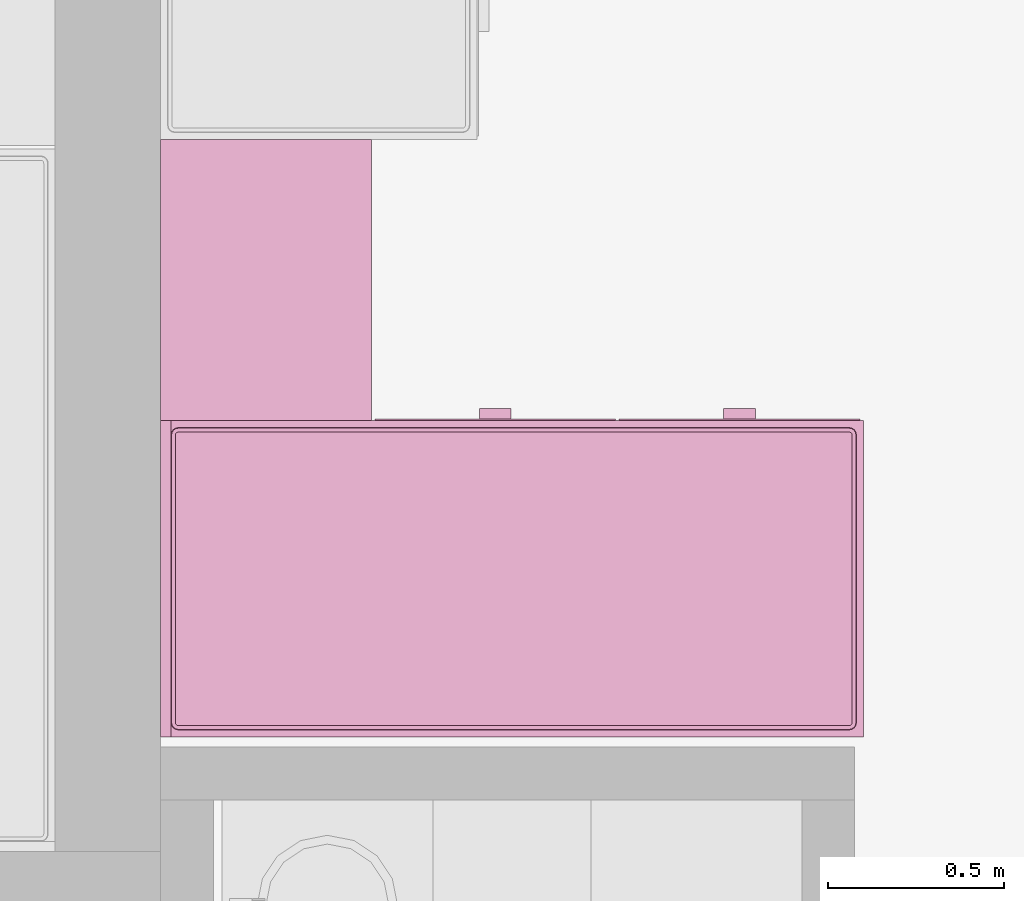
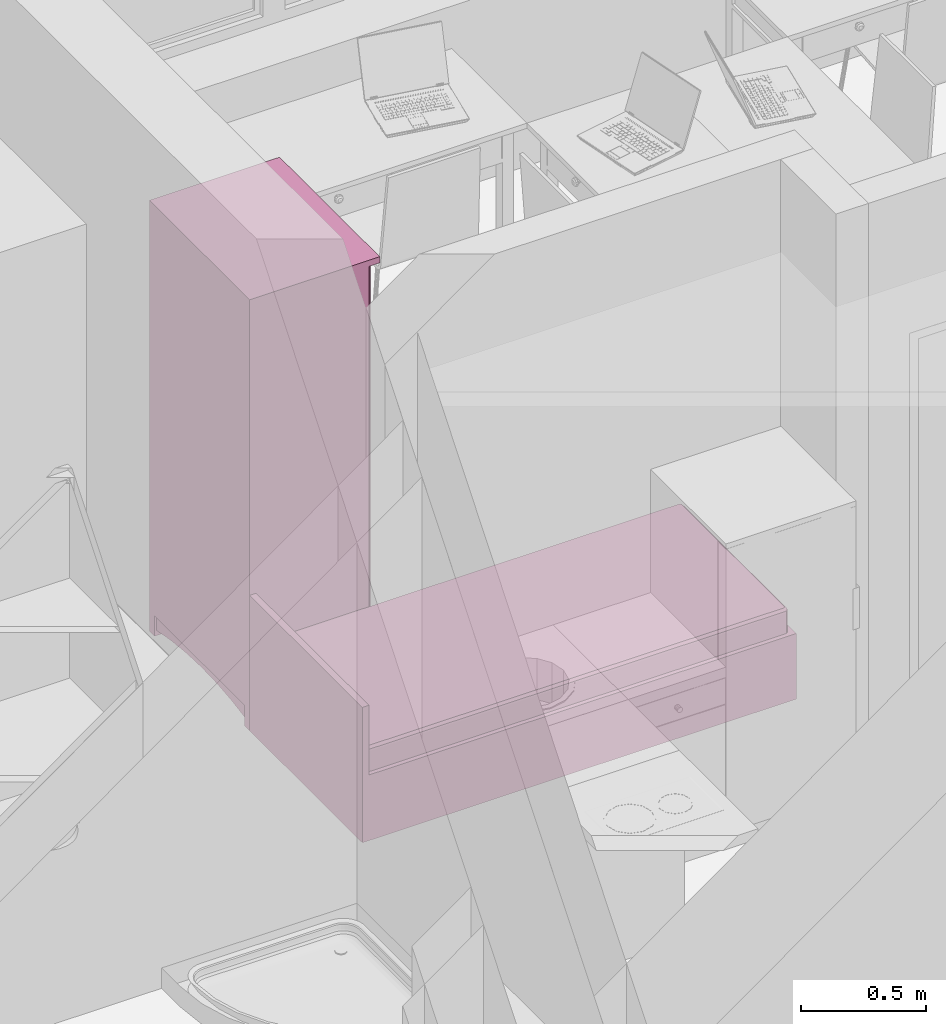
# One storey, part 145 of 165: 2 furnishings.
"""IFC2X3 building model written with IfcOpenShell, lengths in millimetres."""

from ifc_helpers import new_model, entity, si_unit, converted_unit, money_unit, direction, frame, origin_with_axes, place, context, subcontext, project, spatial, faceted_brep, source, transform, mapped, material, material_list, type_object, element, save


model = new_model("IFC2X3")

# Units and contexts
model_context = context("Model", 3, precision=1e-05, world=origin_with_axes(), true_north=direction((0.0, 1.0)))
body_context = subcontext(model_context, "Body", "Model", "MODEL_VIEW")
ifc_project = project(units=[si_unit("LENGTHUNIT", "METRE", prefix="MILLI"), si_unit("AREAUNIT", "SQUARE_METRE"), si_unit("VOLUMEUNIT", "CUBIC_METRE"), converted_unit("PLANEANGLEUNIT", "DEGREE", entity("IfcPlaneAngleMeasure", 0.0174532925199), si_unit("PLANEANGLEUNIT", "RADIAN"), dimensions=[0, 0, 0, 0, 0, 0, 0]), si_unit("SOLIDANGLEUNIT", "STERADIAN"), money_unit("USD"), converted_unit("TIMEUNIT", "Year", entity("IfcTimeMeasure", 31556926.0), si_unit("TIMEUNIT", "SECOND"), dimensions=[0, 0, 0, 0, 0, 0, 0]), si_unit("MASSUNIT", "GRAM"), si_unit("THERMODYNAMICTEMPERATUREUNIT", "DEGREE_CELSIUS"), si_unit("LUMINOUSINTENSITYUNIT", "LUMEN")], contexts=[model_context])

# Site, building, storey
site_placement = place(None, origin_with_axes())
site = spatial("IfcSite", under=ifc_project, at=site_placement, Name="Site", CompositionType="ELEMENT")
building_placement = place(site_placement, origin_with_axes())
building = spatial("IfcBuilding", under=site, at=building_placement, Name="Building", CompositionType="ELEMENT")
storey_placement = place(building_placement, frame((0.0, 0.0, 6300.0), z_axis=(0.0, 0.0, 1.0), x_axis=(1.0, 0.0, 0.0)))
storey = spatial("IfcBuildingStorey", under=building, at=storey_placement, Name="4KORRUS", CompositionType="ELEMENT", Elevation=6300.0)

# Furnishings
ifc_material = material(Name="Background")
ifc_material_list = material_list([ifc_material])
furnishing_element_type_1 = type_object("IfcFurnishingElementType", Name="Bed 19")
shared_shape_1 = source(origin_with_axes(), body_context, "Body", "Brep", [
    faceted_brep([(900.0, 1970.0, 0.0), (0.0, 1970.0, 0.0), (0.0, 2000.0, 0.0), (900.0, 2000.0, 0.0), (900.0, 1970.0, 660.0), (0.0, 1970.0, 660.0), (0.0, 2000.0, 660.0), (900.0, 2000.0, 660.0)], [[[0, 1, 2, 3]], [[1, 0, 4, 5]], [[2, 1, 5, 6]], [[3, 2, 6, 7]], [[0, 3, 7, 4]], [[5, 4, 7, 6]]]),
    faceted_brep([(900.0, 0.0, 0.0), (0.0, 0.0, 0.0), (0.0, 1970.0, 0.0), (900.0, 1970.0, 0.0), (900.0, 0.0, 320.0), (0.0, 0.0, 320.0), (0.0, 1970.0, 320.0), (900.0, 1970.0, 320.0)], [[[0, 1, 2, 3]], [[1, 0, 4, 5]], [[2, 1, 5, 6]], [[3, 2, 6, 7]], [[0, 3, 7, 4]], [[5, 4, 7, 6]]]),
    faceted_brep([(905.0, 10.0, 30.0), (900.0, 10.0, 30.0), (900.0, 695.0, 30.0), (905.0, 695.0, 30.0), (905.0, 10.0, 290.0), (900.0, 10.0, 290.0), (900.0, 695.0, 290.0), (905.0, 695.0, 290.0)], [[[0, 1, 2, 3]], [[1, 0, 4, 5]], [[2, 1, 5, 6]], [[3, 2, 6, 7]], [[0, 3, 7, 4]], [[5, 4, 7, 6]]]),
    faceted_brep([(935.0, 307.5, 150.0), (905.0, 307.5, 150.0), (905.0, 397.5, 150.0), (935.0, 397.5, 150.0), (935.0, 307.5, 170.0), (905.0, 307.5, 170.0), (905.0, 397.5, 170.0), (935.0, 397.5, 170.0)], [[[0, 1, 2, 3]], [[1, 0, 4, 5]], [[2, 1, 5, 6]], [[3, 2, 6, 7]], [[0, 3, 7, 4]], [[5, 4, 7, 6]]]),
    faceted_brep([(905.0, 705.0, 30.0), (900.0, 705.0, 30.0), (900.0, 1390.0, 30.0), (905.0, 1390.0, 30.0), (905.0, 705.0, 290.0), (900.0, 705.0, 290.0), (900.0, 1390.0, 290.0), (905.0, 1390.0, 290.0)], [[[0, 1, 2, 3]], [[1, 0, 4, 5]], [[2, 1, 5, 6]], [[3, 2, 6, 7]], [[0, 3, 7, 4]], [[5, 4, 7, 6]]]),
    faceted_brep([(935.0, 1002.5, 150.0), (905.0, 1002.5, 150.0), (905.0, 1092.5, 150.0), (935.0, 1092.5, 150.0), (935.0, 1002.5, 170.0), (905.0, 1002.5, 170.0), (905.0, 1092.5, 170.0), (935.0, 1092.5, 170.0)], [[[0, 1, 2, 3]], [[1, 0, 4, 5]], [[2, 1, 5, 6]], [[3, 2, 6, 7]], [[0, 3, 7, 4]], [[5, 4, 7, 6]]]),
    faceted_brep([(20.0, 40.0, 350.0), (20.0, 1950.0, 350.0), (21.522, 1957.654, 350.0), (25.858, 1964.142, 350.0), (32.346, 1968.478, 350.0), (40.0, 1970.0, 350.0), (860.0, 1970.0, 350.0), (867.654, 1968.478, 350.0), (874.142, 1964.142, 350.0), (878.478, 1957.654, 350.0), (880.0, 1950.0, 350.0), (880.0, 40.0, 350.0), (878.478, 32.346, 350.0), (874.142, 25.858, 350.0), (867.654, 21.522, 350.0), (860.0, 20.0, 350.0), (40.0, 20.0, 350.0), (32.346, 21.522, 350.0), (25.858, 25.858, 350.0), (21.522, 32.346, 350.0), (20.0, 40.0, 420.0), (20.0, 1950.0, 420.0), (21.522, 1957.654, 420.0), (25.858, 1964.142, 420.0), (32.346, 1968.478, 420.0), (40.0, 1970.0, 420.0), (860.0, 1970.0, 420.0), (867.654, 1968.478, 420.0), (874.142, 1964.142, 420.0), (878.478, 1957.654, 420.0), (880.0, 1950.0, 420.0), (880.0, 40.0, 420.0), (878.478, 32.346, 420.0), (874.142, 25.858, 420.0), (867.654, 21.522, 420.0), (860.0, 20.0, 420.0), (40.0, 20.0, 420.0), (32.346, 21.522, 420.0), (25.858, 25.858, 420.0), (21.522, 32.346, 420.0), (21.522, 40.15, 427.654), (21.522, 1949.85, 427.654), (22.956, 1957.06, 427.654), (26.955, 1963.045, 427.654), (32.94, 1967.044, 427.654), (40.15, 1968.478, 427.654), (859.85, 1968.478, 427.654), (867.06, 1967.044, 427.654), (873.045, 1963.045, 427.654), (877.044, 1957.06, 427.654), (878.478, 1949.85, 427.654), (878.478, 40.15, 427.654), (877.044, 32.94, 427.654), (873.045, 26.955, 427.654), (867.06, 22.956, 427.654), (859.85, 21.522, 427.654), (40.15, 21.522, 427.654), (32.94, 22.956, 427.654), (26.955, 26.955, 427.654), (22.956, 32.94, 427.654), (32.346, 41.216, 438.478), (32.346, 1948.784, 438.478), (33.152, 1952.836, 438.478), (34.759, 1955.241, 438.478), (37.164, 1956.848, 438.478), (41.216, 1957.654, 438.478), (858.784, 1957.654, 438.478), (862.836, 1956.848, 438.478), (865.241, 1955.241, 438.478), (866.848, 1952.836, 438.478), (867.654, 1948.784, 438.478), (867.654, 41.216, 438.478), (866.848, 37.164, 438.478), (865.241, 34.759, 438.478), (862.836, 33.152, 438.478), (858.784, 32.346, 438.478), (41.216, 32.346, 438.478), (37.164, 33.152, 438.478), (34.759, 34.759, 438.478), (33.152, 37.164, 438.478), (40.0, 41.97, 440.0), (40.0, 1948.03, 440.0), (40.327, 1949.673, 440.0), (40.0, 1950.0, 439.924), (41.97, 1950.0, 440.0), (858.03, 1950.0, 440.0), (859.673, 1949.673, 440.0), (860.0, 1950.0, 439.924), (860.0, 1948.03, 440.0), (860.0, 41.97, 440.0), (859.673, 40.327, 440.0), (860.0, 40.0, 439.924), (858.03, 40.0, 440.0), (41.97, 40.0, 440.0), (40.327, 40.327, 440.0), (40.0, 40.0, 439.924)], [[[0, 1, 2, 3, 4, 5, 6, 7, 8, 9, 10, 11, 12, 13, 14, 15, 16, 17, 18, 19]], [[1, 0, 20, 21]], [[2, 1, 21, 22]], [[3, 2, 22, 23]], [[4, 3, 23, 24]], [[5, 4, 24, 25]], [[6, 5, 25, 26]], [[7, 6, 26, 27]], [[8, 7, 27, 28]], [[9, 8, 28, 29]], [[10, 9, 29, 30]], [[11, 10, 30, 31]], [[12, 11, 31, 32]], [[13, 12, 32, 33]], [[14, 13, 33, 34]], [[15, 14, 34, 35]], [[16, 15, 35, 36]], [[17, 16, 36, 37]], [[18, 17, 37, 38]], [[19, 18, 38, 39]], [[0, 19, 39, 20]], [[21, 20, 40, 41]], [[22, 21, 41, 42]], [[23, 22, 42, 43]], [[24, 23, 43, 44]], [[25, 24, 44, 45]], [[26, 25, 45, 46]], [[27, 26, 46, 47]], [[28, 27, 47, 48]], [[29, 28, 48, 49]], [[30, 29, 49, 50]], [[31, 30, 50, 51]], [[32, 31, 51, 52]], [[33, 32, 52, 53]], [[34, 33, 53, 54]], [[35, 34, 54, 55]], [[36, 35, 55, 56]], [[37, 36, 56, 57]], [[38, 37, 57, 58]], [[39, 38, 58, 59]], [[20, 39, 59, 40]], [[41, 40, 60, 61]], [[42, 41, 61, 62]], [[43, 42, 62, 63]], [[44, 43, 63, 64]], [[45, 44, 64, 65]], [[46, 45, 65, 66]], [[47, 46, 66, 67]], [[48, 47, 67, 68]], [[49, 48, 68, 69]], [[50, 49, 69, 70]], [[51, 50, 70, 71]], [[52, 51, 71, 72]], [[53, 52, 72, 73]], [[54, 53, 73, 74]], [[55, 54, 74, 75]], [[56, 55, 75, 76]], [[57, 56, 76, 77]], [[58, 57, 77, 78]], [[59, 58, 78, 79]], [[40, 59, 79, 60]], [[61, 60, 80, 81]], [[62, 61, 81, 82, 83]], [[63, 62, 83]], [[64, 63, 83]], [[65, 64, 83, 82, 84]], [[66, 65, 84, 85]], [[67, 66, 85, 86, 87]], [[68, 67, 87]], [[69, 68, 87]], [[70, 69, 87, 86, 88]], [[71, 70, 88, 89]], [[72, 71, 89, 90, 91]], [[73, 72, 91]], [[74, 73, 91]], [[75, 74, 91, 90, 92]], [[76, 75, 92, 93]], [[77, 76, 93, 94, 95]], [[78, 77, 95]], [[79, 78, 95]], [[60, 79, 95, 94, 80]], [[81, 80, 94, 93, 92, 90, 89, 88, 86, 85, 84, 82]]]),
    faceted_brep([(20.0, 40.0, 350.0), (21.522, 32.346, 350.0), (25.858, 25.858, 350.0), (32.346, 21.522, 350.0), (40.0, 20.0, 350.0), (860.0, 20.0, 350.0), (867.654, 21.522, 350.0), (874.142, 25.858, 350.0), (878.478, 32.346, 350.0), (880.0, 40.0, 350.0), (880.0, 1950.0, 350.0), (878.478, 1957.654, 350.0), (874.142, 1964.142, 350.0), (867.654, 1968.478, 350.0), (860.0, 1970.0, 350.0), (40.0, 1970.0, 350.0), (32.346, 1968.478, 350.0), (25.858, 1964.142, 350.0), (21.522, 1957.654, 350.0), (20.0, 1950.0, 350.0), (20.0, 40.0, 320.0), (21.522, 32.346, 320.0), (25.858, 25.858, 320.0), (32.346, 21.522, 320.0), (40.0, 20.0, 320.0), (860.0, 20.0, 320.0), (867.654, 21.522, 320.0), (874.142, 25.858, 320.0), (878.478, 32.346, 320.0), (880.0, 40.0, 320.0), (880.0, 1950.0, 320.0), (878.478, 1957.654, 320.0), (874.142, 1964.142, 320.0), (867.654, 1968.478, 320.0), (860.0, 1970.0, 320.0), (40.0, 1970.0, 320.0), (32.346, 1968.478, 320.0), (25.858, 1964.142, 320.0), (21.522, 1957.654, 320.0), (20.0, 1950.0, 320.0)], [[[0, 1, 2, 3, 4, 5, 6, 7, 8, 9, 10, 11, 12, 13, 14, 15, 16, 17, 18, 19]], [[0, 20, 21, 1]], [[1, 21, 22, 2]], [[2, 22, 23, 3]], [[3, 23, 24, 4]], [[4, 24, 25, 5]], [[5, 25, 26, 6]], [[6, 26, 27, 7]], [[7, 27, 28, 8]], [[8, 28, 29, 9]], [[9, 29, 30, 10]], [[10, 30, 31, 11]], [[11, 31, 32, 12]], [[12, 32, 33, 13]], [[13, 33, 34, 14]], [[14, 34, 35, 15]], [[15, 35, 36, 16]], [[16, 36, 37, 17]], [[17, 37, 38, 18]], [[18, 38, 39, 19]], [[19, 39, 20, 0]], [[20, 39, 38, 37, 36, 35, 34, 33, 32, 31, 30, 29, 28, 27, 26, 25, 24, 23, 22, 21]]]),
])
furnishing_1_placement = place(storey_placement, frame((14009.7032967, -8890.45351827, 0.0), z_axis=(0.0, 0.0, 1.0), x_axis=(0.0, 1.0, 0.0)))
element("IfcFurnishingElement", 1, at=furnishing_1_placement, inside=storey, type_object=furnishing_element_type_1, material=ifc_material_list, Name="FU - 013", context=body_context, shape_type="MappedRepresentation", body=[
    mapped(shared_shape_1, transform((0.0, 0.0, 0.0))),
])
furnishing_element_type_2 = type_object("IfcFurnishingElementType", Name="Cupboard 19")
shared_shape_2 = source(origin_with_axes(), body_context, "Body", "Brep", [
    faceted_brep([(780.0, 600.0, 120.0), (780.0, 600.0, 2050.0), (780.0, 580.0, 2050.0), (780.0, 580.0, 120.0), (20.0, 600.0, 120.0), (20.0, 600.0, 2050.0), (20.0, 580.0, 2050.0), (20.0, 580.0, 120.0)], [[[0, 1, 2, 3]], [[4, 5, 1, 0]], [[1, 5, 6, 2]], [[3, 2, 6, 7]], [[0, 3, 7, 4]], [[7, 6, 5, 4]]]),
    faceted_brep([(0.0, 50.0, 100.0), (0.0, 600.0, 100.0), (20.0, 600.0, 100.0), (20.0, 50.0, 100.0), (0.0, 50.0, 2070.0), (0.0, 600.0, 2070.0), (20.0, 600.0, 2070.0), (20.0, 50.0, 2070.0)], [[[0, 1, 2, 3]], [[0, 4, 5, 1]], [[1, 5, 6, 2]], [[2, 6, 7, 3]], [[3, 7, 4, 0]], [[7, 6, 5, 4]]]),
    faceted_brep([(780.0, 50.0, 100.0), (780.0, 600.0, 100.0), (800.0, 600.0, 100.0), (800.0, 50.0, 100.0), (780.0, 50.0, 2070.0), (780.0, 600.0, 2070.0), (800.0, 600.0, 2070.0), (800.0, 50.0, 2070.0)], [[[0, 1, 2, 3]], [[0, 4, 5, 1]], [[1, 5, 6, 2]], [[2, 6, 7, 3]], [[3, 7, 4, 0]], [[7, 6, 5, 4]]]),
    faceted_brep([(20.0, 50.0, 100.0), (20.0, 600.0, 100.0), (780.0, 600.0, 100.0), (780.0, 50.0, 100.0), (20.0, 50.0, 120.0), (20.0, 600.0, 120.0), (780.0, 600.0, 120.0), (780.0, 50.0, 120.0)], [[[0, 1, 2, 3]], [[0, 4, 5, 1]], [[1, 5, 6, 2]], [[2, 6, 7, 3]], [[3, 7, 4, 0]], [[7, 6, 5, 4]]]),
    faceted_brep([(20.0, 50.0, 2050.0), (20.0, 600.0, 2050.0), (780.0, 600.0, 2050.0), (780.0, 50.0, 2050.0), (20.0, 50.0, 2070.0), (20.0, 600.0, 2070.0), (780.0, 600.0, 2070.0), (780.0, 50.0, 2070.0)], [[[0, 1, 2, 3]], [[0, 4, 5, 1]], [[1, 5, 6, 2]], [[2, 6, 7, 3]], [[3, 7, 4, 0]], [[7, 6, 5, 4]]]),
    faceted_brep([(0.0, 600.0, 2070.0), (0.0, 0.0, 2070.0), (0.0, 0.0, 2100.0), (0.0, 600.0, 2100.0), (800.0, 600.0, 2070.0), (800.0, 0.0, 2070.0), (800.0, 0.0, 2100.0), (800.0, 600.0, 2100.0)], [[[0, 1, 2, 3]], [[0, 4, 5, 1]], [[1, 5, 6, 2]], [[3, 2, 6, 7]], [[4, 0, 3, 7]], [[5, 4, 7, 6]]]),
    faceted_brep([(760.0, 590.0, 25.0), (760.0, 570.0, 25.0), (640.962, 570.0, 45.8), (640.962, 590.0, 45.8), (760.0, 590.0, 100.0), (760.0, 570.0, 100.0), (40.0, 570.0, 100.0), (40.0, 570.0, 25.0), (159.038, 570.0, 45.8), (279.23, 570.0, 58.32), (400.0, 570.0, 62.5), (520.77, 570.0, 58.32), (520.77, 590.0, 58.32), (400.0, 590.0, 62.5), (279.23, 590.0, 58.32), (159.038, 590.0, 45.8), (40.0, 590.0, 25.0), (40.0, 590.0, 100.0)], [[[0, 1, 2, 3]], [[4, 5, 1, 0]], [[1, 5, 6, 7, 8, 9, 10, 11, 2]], [[3, 2, 11, 12]], [[0, 3, 12, 13, 14, 15, 16, 17, 4]], [[17, 6, 5, 4]], [[16, 7, 6, 17]], [[15, 8, 7, 16]], [[14, 9, 8, 15]], [[13, 10, 9, 14]], [[12, 11, 10, 13]]]),
    faceted_brep([(760.0, 80.0, 25.0), (760.0, 60.0, 25.0), (640.962, 60.0, 45.8), (640.962, 80.0, 45.8), (760.0, 80.0, 100.0), (760.0, 60.0, 100.0), (40.0, 60.0, 100.0), (40.0, 60.0, 25.0), (159.038, 60.0, 45.8), (279.23, 60.0, 58.32), (400.0, 60.0, 62.5), (520.77, 60.0, 58.32), (520.77, 80.0, 58.32), (400.0, 80.0, 62.5), (279.23, 80.0, 58.32), (159.038, 80.0, 45.8), (40.0, 80.0, 25.0), (40.0, 80.0, 100.0)], [[[0, 1, 2, 3]], [[4, 5, 1, 0]], [[1, 5, 6, 7, 8, 9, 10, 11, 2]], [[3, 2, 11, 12]], [[0, 3, 12, 13, 14, 15, 16, 17, 4]], [[17, 6, 5, 4]], [[16, 7, 6, 17]], [[15, 8, 7, 16]], [[14, 9, 8, 15]], [[13, 10, 9, 14]], [[12, 11, 10, 13]]]),
    faceted_brep([(790.0, 90.0, 25.0), (770.0, 90.0, 25.0), (770.0, 141.266, 38.072), (790.0, 141.266, 38.072), (790.0, 90.0, 100.0), (770.0, 90.0, 100.0), (770.0, 560.0, 100.0), (770.0, 560.0, 25.0), (770.0, 508.734, 38.072), (770.0, 456.752, 47.92), (770.0, 404.257, 54.508), (770.0, 351.453, 57.808), (770.0, 298.547, 57.808), (770.0, 245.743, 54.508), (770.0, 193.248, 47.92), (790.0, 193.248, 47.92), (790.0, 245.743, 54.508), (790.0, 298.547, 57.808), (790.0, 351.453, 57.808), (790.0, 404.257, 54.508), (790.0, 456.752, 47.92), (790.0, 508.734, 38.072), (790.0, 560.0, 25.0), (790.0, 560.0, 100.0)], [[[0, 1, 2, 3]], [[4, 5, 1, 0]], [[1, 5, 6, 7, 8, 9, 10, 11, 12, 13, 14, 2]], [[3, 2, 14, 15]], [[0, 3, 15, 16, 17, 18, 19, 20, 21, 22, 23, 4]], [[23, 6, 5, 4]], [[22, 7, 6, 23]], [[21, 8, 7, 22]], [[20, 9, 8, 21]], [[19, 10, 9, 20]], [[18, 11, 10, 19]], [[17, 12, 11, 18]], [[16, 13, 12, 17]], [[15, 14, 13, 16]]]),
    faceted_brep([(30.0, 90.0, 25.0), (10.0, 90.0, 25.0), (10.0, 141.266, 38.072), (30.0, 141.266, 38.072), (30.0, 90.0, 100.0), (10.0, 90.0, 100.0), (10.0, 560.0, 100.0), (10.0, 560.0, 25.0), (10.0, 508.734, 38.072), (10.0, 456.752, 47.92), (10.0, 404.257, 54.508), (10.0, 351.453, 57.808), (10.0, 298.547, 57.808), (10.0, 245.743, 54.508), (10.0, 193.248, 47.92), (30.0, 193.248, 47.92), (30.0, 245.743, 54.508), (30.0, 298.547, 57.808), (30.0, 351.453, 57.808), (30.0, 404.257, 54.508), (30.0, 456.752, 47.92), (30.0, 508.734, 38.072), (30.0, 560.0, 25.0), (30.0, 560.0, 100.0)], [[[0, 1, 2, 3]], [[4, 5, 1, 0]], [[1, 5, 6, 7, 8, 9, 10, 11, 12, 13, 14, 2]], [[3, 2, 14, 15]], [[0, 3, 15, 16, 17, 18, 19, 20, 21, 22, 23, 4]], [[23, 6, 5, 4]], [[22, 7, 6, 23]], [[21, 8, 7, 22]], [[20, 9, 8, 21]], [[19, 10, 9, 20]], [[18, 11, 10, 19]], [[17, 12, 11, 18]], [[16, 13, 12, 17]], [[15, 14, 13, 16]]]),
    faceted_brep([(760.0, 560.0, 0.0), (760.0, 560.0, 100.0), (760.0, 600.0, 100.0), (760.0, 600.0, 0.0), (800.0, 560.0, 0.0), (800.0, 560.0, 100.0), (800.0, 600.0, 100.0), (800.0, 600.0, 0.0)], [[[0, 1, 2, 3]], [[4, 5, 1, 0]], [[1, 5, 6, 2]], [[3, 2, 6, 7]], [[0, 3, 7, 4]], [[7, 6, 5, 4]]]),
    faceted_brep([(0.0, 560.0, 0.0), (0.0, 560.0, 100.0), (0.0, 600.0, 100.0), (0.0, 600.0, 0.0), (40.0, 560.0, 0.0), (40.0, 560.0, 100.0), (40.0, 600.0, 100.0), (40.0, 600.0, 0.0)], [[[0, 1, 2, 3]], [[4, 5, 1, 0]], [[1, 5, 6, 2]], [[3, 2, 6, 7]], [[0, 3, 7, 4]], [[7, 6, 5, 4]]]),
    faceted_brep([(760.0, 50.0, 0.0), (760.0, 50.0, 100.0), (760.0, 90.0, 100.0), (760.0, 90.0, 0.0), (800.0, 50.0, 0.0), (800.0, 50.0, 100.0), (800.0, 90.0, 100.0), (800.0, 90.0, 0.0)], [[[0, 1, 2, 3]], [[4, 5, 1, 0]], [[1, 5, 6, 2]], [[3, 2, 6, 7]], [[0, 3, 7, 4]], [[7, 6, 5, 4]]]),
    faceted_brep([(0.0, 50.0, 0.0), (0.0, 50.0, 100.0), (0.0, 90.0, 100.0), (0.0, 90.0, 0.0), (40.0, 50.0, 0.0), (40.0, 50.0, 100.0), (40.0, 90.0, 100.0), (40.0, 90.0, 0.0)], [[[0, 1, 2, 3]], [[4, 5, 1, 0]], [[1, 5, 6, 2]], [[3, 2, 6, 7]], [[0, 3, 7, 4]], [[7, 6, 5, 4]]]),
    faceted_brep([(780.0, 580.0, 587.5), (780.0, 580.0, 607.5), (780.0, 50.0, 607.5), (780.0, 50.0, 587.5), (20.0, 580.0, 587.5), (20.0, 580.0, 607.5), (20.0, 50.0, 607.5), (20.0, 50.0, 587.5)], [[[0, 1, 2, 3]], [[4, 5, 1, 0]], [[1, 5, 6, 2]], [[3, 2, 6, 7]], [[0, 3, 7, 4]], [[7, 6, 5, 4]]]),
    faceted_brep([(780.0, 580.0, 1075.0), (780.0, 580.0, 1095.0), (780.0, 50.0, 1095.0), (780.0, 50.0, 1075.0), (20.0, 580.0, 1075.0), (20.0, 580.0, 1095.0), (20.0, 50.0, 1095.0), (20.0, 50.0, 1075.0)], [[[0, 1, 2, 3]], [[4, 5, 1, 0]], [[1, 5, 6, 2]], [[3, 2, 6, 7]], [[0, 3, 7, 4]], [[7, 6, 5, 4]]]),
    faceted_brep([(780.0, 580.0, 1562.5), (780.0, 580.0, 1582.5), (780.0, 50.0, 1582.5), (780.0, 50.0, 1562.5), (20.0, 580.0, 1562.5), (20.0, 580.0, 1582.5), (20.0, 50.0, 1582.5), (20.0, 50.0, 1562.5)], [[[0, 1, 2, 3]], [[4, 5, 1, 0]], [[1, 5, 6, 2]], [[3, 2, 6, 7]], [[0, 3, 7, 4]], [[7, 6, 5, 4]]]),
    faceted_brep([(789.5, 50.0, 110.5), (400.5, 50.0, 110.5), (400.5, 50.0, 2059.5), (789.5, 50.0, 2059.5), (789.5, 40.0, 110.5), (400.5, 40.0, 110.5), (400.5, 40.0, 2059.5), (789.5, 40.0, 2059.5), (779.5, 30.0, 120.5), (410.5, 30.0, 120.5), (410.5, 30.0, 2049.5), (779.5, 30.0, 2049.5)], [[[0, 1, 2, 3]], [[0, 4, 5, 1]], [[1, 5, 6, 2]], [[2, 6, 7, 3]], [[3, 7, 4, 0]], [[4, 8, 9, 5]], [[5, 9, 10, 6]], [[6, 10, 11, 7]], [[7, 11, 8, 4]], [[10, 9, 8, 11]]]),
    faceted_brep([(399.5, 50.0, 110.5), (10.5, 50.0, 110.5), (10.5, 50.0, 2059.5), (399.5, 50.0, 2059.5), (399.5, 40.0, 110.5), (10.5, 40.0, 110.5), (10.5, 40.0, 2059.5), (399.5, 40.0, 2059.5), (389.5, 30.0, 120.5), (20.5, 30.0, 120.5), (20.5, 30.0, 2049.5), (389.5, 30.0, 2049.5)], [[[0, 1, 2, 3]], [[0, 4, 5, 1]], [[1, 5, 6, 2]], [[2, 6, 7, 3]], [[3, 7, 4, 0]], [[4, 8, 9, 5]], [[5, 9, 10, 6]], [[6, 10, 11, 7]], [[7, 11, 8, 4]], [[10, 9, 8, 11]]]),
    faceted_brep([(339.608, 30.0, 954.0), (338.0, 30.0, 960.0), (339.608, 30.0, 966.0), (344.0, 30.0, 970.392), (350.0, 30.0, 972.0), (356.0, 30.0, 970.392), (360.392, 30.0, 966.0), (362.0, 30.0, 960.0), (360.392, 30.0, 954.0), (356.0, 30.0, 949.608), (350.0, 30.0, 948.0), (344.0, 30.0, 949.608), (339.608, 5.0, 954.0), (338.0, 5.0, 960.0), (339.608, 5.0, 966.0), (344.0, 5.0, 970.392), (350.0, 5.0, 972.0), (356.0, 5.0, 970.392), (360.392, 5.0, 966.0), (362.0, 5.0, 960.0), (360.392, 5.0, 954.0), (356.0, 5.0, 949.608), (350.0, 5.0, 948.0), (344.0, 5.0, 949.608)], [[[0, 1, 2, 3, 4, 5, 6, 7, 8, 9, 10, 11]], [[0, 12, 13, 1]], [[1, 13, 14, 2]], [[2, 14, 15, 3]], [[3, 15, 16, 4]], [[4, 16, 17, 5]], [[5, 17, 18, 6]], [[6, 18, 19, 7]], [[7, 19, 20, 8]], [[8, 20, 21, 9]], [[9, 21, 22, 10]], [[10, 22, 23, 11]], [[11, 23, 12, 0]], [[12, 23, 22, 21, 20, 19, 18, 17, 16, 15, 14, 13]]]),
    faceted_brep([(460.392, 30.0, 954.0), (456.0, 30.0, 949.608), (450.0, 30.0, 948.0), (444.0, 30.0, 949.608), (439.608, 30.0, 954.0), (438.0, 30.0, 960.0), (439.608, 30.0, 966.0), (444.0, 30.0, 970.392), (450.0, 30.0, 972.0), (456.0, 30.0, 970.392), (460.392, 30.0, 966.0), (462.0, 30.0, 960.0), (460.392, 5.0, 954.0), (456.0, 5.0, 949.608), (450.0, 5.0, 948.0), (444.0, 5.0, 949.608), (439.608, 5.0, 954.0), (438.0, 5.0, 960.0), (439.608, 5.0, 966.0), (444.0, 5.0, 970.392), (450.0, 5.0, 972.0), (456.0, 5.0, 970.392), (460.392, 5.0, 966.0), (462.0, 5.0, 960.0)], [[[0, 1, 2, 3, 4, 5, 6, 7, 8, 9, 10, 11]], [[1, 0, 12, 13]], [[2, 1, 13, 14]], [[3, 2, 14, 15]], [[4, 3, 15, 16]], [[5, 4, 16, 17]], [[6, 5, 17, 18]], [[7, 6, 18, 19]], [[8, 7, 19, 20]], [[9, 8, 20, 21]], [[10, 9, 21, 22]], [[11, 10, 22, 23]], [[0, 11, 23, 12]], [[12, 23, 22, 21, 20, 19, 18, 17, 16, 15, 14, 13]]]),
])
furnishing_2_placement = place(storey_placement, frame((12609.7032967, -7990.45351827, 0.0), z_axis=(0.0, 0.0, 1.0), x_axis=(0.0, 1.0, 0.0)))
element("IfcFurnishingElement", 2, at=furnishing_2_placement, inside=storey, type_object=furnishing_element_type_2, material=ifc_material_list, Name="FU - 014", context=body_context, shape_type="MappedRepresentation", body=[
    mapped(shared_shape_2, transform((0.0, 0.0, 0.0))),
])

save(model, "model.ifc")
